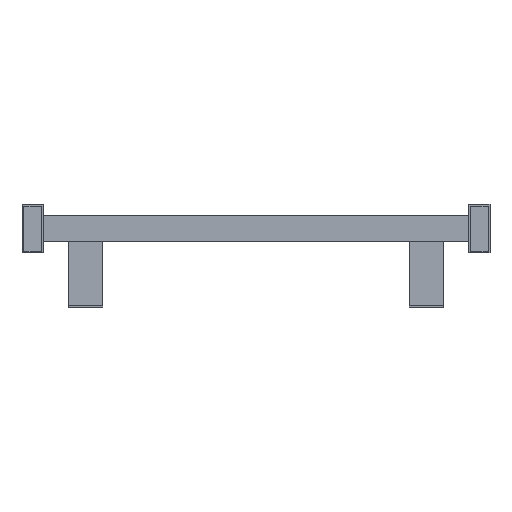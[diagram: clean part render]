
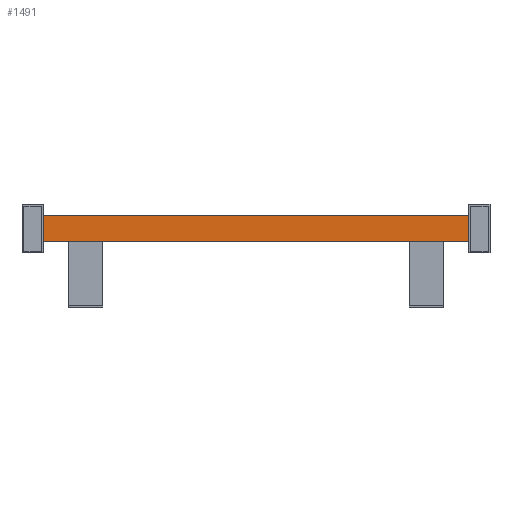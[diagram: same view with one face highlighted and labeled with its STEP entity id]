
A CAD part, front view. The second image highlights one B-rep face of the part: STEP entity #1491.
In plain terms, the highlighted planar face has unit normal (0, -1, 0).
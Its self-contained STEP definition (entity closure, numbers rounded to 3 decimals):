
#253=DIRECTION('',(0.,0.,1.));
#254=VECTOR('',#253,30.);
#255=CARTESIAN_POINT('',(-250.,250.,-15.));
#256=LINE('',#255,#254);
#353=DIRECTION('',(0.,0.,1.));
#354=VECTOR('',#353,30.);
#355=CARTESIAN_POINT('',(250.,250.,-15.));
#356=LINE('',#355,#354);
#561=DIRECTION('',(1.,0.,0.));
#562=VECTOR('',#561,500.);
#563=CARTESIAN_POINT('',(-250.,250.,-15.));
#564=LINE('',#563,#562);
#573=DIRECTION('',(1.,0.,0.));
#574=VECTOR('',#573,500.);
#575=CARTESIAN_POINT('',(-250.,250.,15.));
#576=LINE('',#575,#574);
#721=CARTESIAN_POINT('',(-250.,250.,-15.));
#723=VERTEX_POINT('',#721);
#725=CARTESIAN_POINT('',(-250.,250.,15.));
#727=VERTEX_POINT('',#725);
#729=CARTESIAN_POINT('',(250.,250.,-15.));
#731=VERTEX_POINT('',#729);
#733=CARTESIAN_POINT('',(250.,250.,15.));
#735=VERTEX_POINT('',#733);
#1479=CARTESIAN_POINT('',(-250.,250.,-15.));
#1480=DIRECTION('',(0.,-1.,0.));
#1481=DIRECTION('',(1.,0.,0.));
#1482=AXIS2_PLACEMENT_3D('',#1479,#1480,#1481);
#1483=PLANE('',#1482);
#1484=ORIENTED_EDGE('',*,*,#960,.T.);
#1486=ORIENTED_EDGE('',*,*,#1485,.T.);
#1487=ORIENTED_EDGE('',*,*,#1064,.F.);
#1488=ORIENTED_EDGE('',*,*,#1471,.F.);
#1489=EDGE_LOOP('',(#1484,#1486,#1487,#1488));
#1490=FACE_OUTER_BOUND('',#1489,.F.);
#960=EDGE_CURVE('',#723,#727,#256,.T.);
#1064=EDGE_CURVE('',#731,#735,#356,.T.);
#1471=EDGE_CURVE('',#723,#731,#564,.T.);
#1485=EDGE_CURVE('',#727,#735,#576,.T.);
#1491=ADVANCED_FACE('',(#1490),#1483,.T.);
